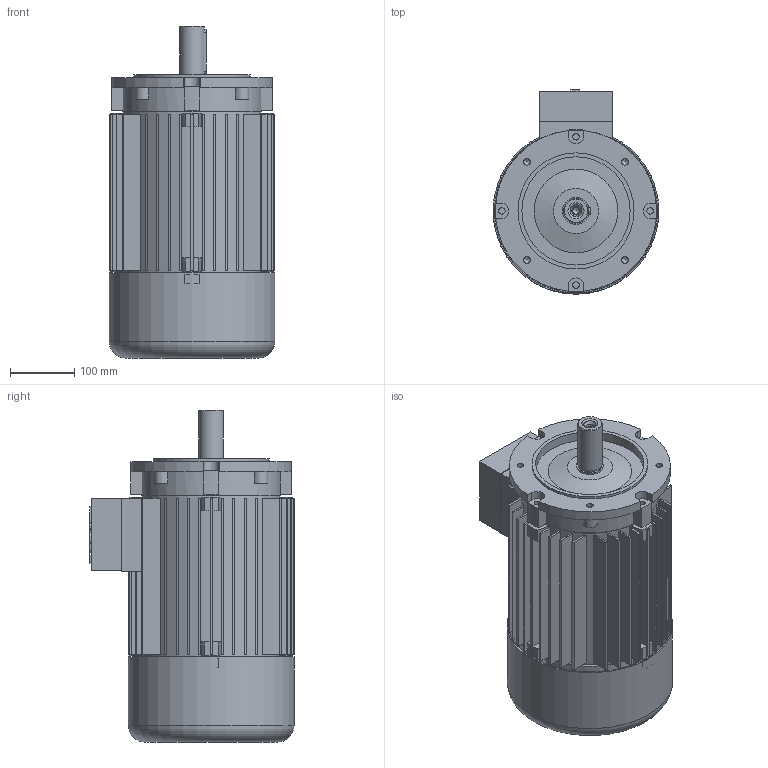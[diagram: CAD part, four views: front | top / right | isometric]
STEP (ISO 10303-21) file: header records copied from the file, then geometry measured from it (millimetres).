
FILE_DESCRIPTION (( 'STEP AP203' ), '1' );
FILE_NAME ('20.18276-C 5AZ 132M B14 small STANDK.STEP', '2020-07-08T07:43:46', ( '' ), ( '' ), 'SwSTEP 2.0', 'SolidWorks 2020', '' );
FILE_SCHEMA (( 'CONFIG_CONTROL_DESIGN' ));
Length unit declared in the file: millimetre
Products named in the file (1): 20.18276-C 5AZ 132M B14 small STANDK
Bounding box: 257 x 316.5 x 515 mm (x, y, z)
Volume: 5425788.9 mm3; surface area: 1483620.9 mm2
Topology: 7 solids, 7 shells, 456 faces, 1152 edges, 765 vertices
Faces by surface type: plane 335, cylinder 104, cone 15, torus 2
Full cylindrical faces by diameter (mm): 10 x4, 10.2 x4, 10.5 x1, 13 x1, 36.4 x1, 38 x1, 40.3 x1, 42 x1, 46 x1, 70 x1, 80 x1, 92.143 x1, 113.76 x1, 168 x1, 180 x1, 197.5 x1, 202.16 x1, 203 x1, 208 x1, 214 x1, 215 x1, 222 x1, 250 x1, 253 x1, 257 x1
Entity records: 13494 total; most frequent: CARTESIAN_POINT 2380, DIRECTION 2351, ORIENTED_EDGE 2166, EDGE_CURVE 1083, AXIS2_PLACEMENT_3D 821, VERTEX_POINT 746, VECTOR 709, LINE 709
